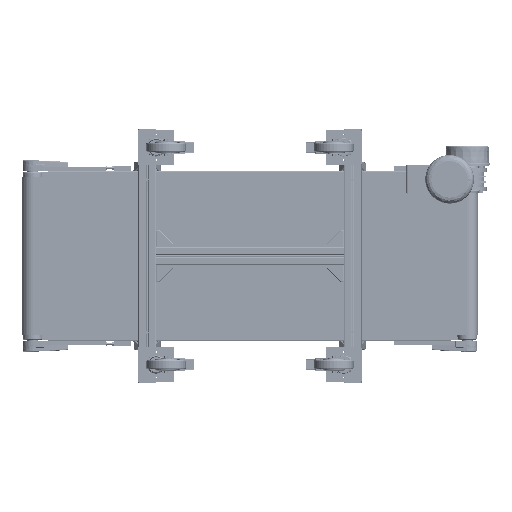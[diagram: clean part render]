
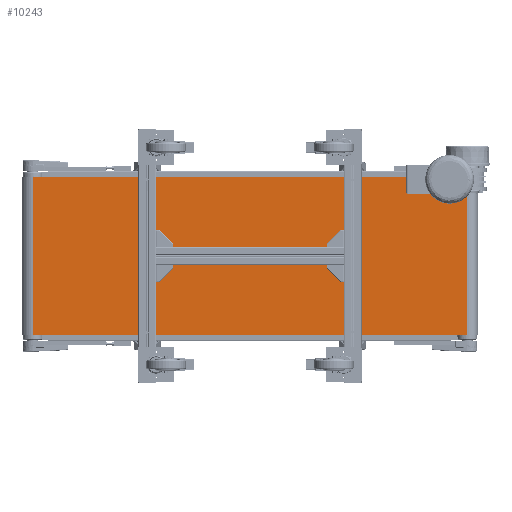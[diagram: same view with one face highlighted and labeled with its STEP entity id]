
A CAD part, front view. The second image highlights one B-rep face of the part: STEP entity #10243.
In plain terms, the highlighted planar face has unit normal (0, -1, 0).
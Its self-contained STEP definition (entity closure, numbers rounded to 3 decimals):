
#3727 = EDGE_CURVE ( 'NONE', #129481, #226383, #172340, .T. ) ;
#10243 = ADVANCED_FACE ( 'NONE', ( #48286 ), #173218, .F. ) ;
#22858 = LINE ( 'NONE', #104065, #58692 ) ;
#23036 = ORIENTED_EDGE ( 'NONE', *, *, #192509, .T. ) ;
#28043 = CARTESIAN_POINT ( 'NONE',  ( -550., -27., 200. ) ) ;
#40107 = ORIENTED_EDGE ( 'NONE', *, *, #241490, .F. ) ;
#42172 = CARTESIAN_POINT ( 'NONE',  ( -550., -27., 200. ) ) ;
#48286 = FACE_OUTER_BOUND ( 'NONE', #259962, .T. ) ;
#58692 = VECTOR ( 'NONE', #185127, 1000. ) ;
#64740 = VERTEX_POINT ( 'NONE', #89130 ) ;
#66953 = CARTESIAN_POINT ( 'NONE',  ( -550., -27., 200. ) ) ;
#71942 = DIRECTION ( 'NONE',  ( 0., 0., -1. ) ) ;
#74131 = CARTESIAN_POINT ( 'NONE',  ( 550., -27., 200. ) ) ;
#89130 = CARTESIAN_POINT ( 'NONE',  ( 550., -27., -200. ) ) ;
#94385 = VERTEX_POINT ( 'NONE', #193499 ) ;
#94840 = VECTOR ( 'NONE', #230897, 1000. ) ;
#104065 = CARTESIAN_POINT ( 'NONE',  ( 550., -27., 200. ) ) ;
#105420 = AXIS2_PLACEMENT_3D ( 'NONE', #66953, #150658, #171910 ) ;
#106093 = VECTOR ( 'NONE', #159884, 1000. ) ;
#107849 = ORIENTED_EDGE ( 'NONE', *, *, #3727, .F. ) ;
#112543 = CARTESIAN_POINT ( 'NONE',  ( -550., -27., 200. ) ) ;
#113833 = ORIENTED_EDGE ( 'NONE', *, *, #192186, .T. ) ;
#121354 = LINE ( 'NONE', #221057, #106093 ) ;
#129481 = VERTEX_POINT ( 'NONE', #42172 ) ;
#150658 = DIRECTION ( 'NONE',  ( 0., 1., 0. ) ) ;
#159884 = DIRECTION ( 'NONE',  ( 1., 0., 0. ) ) ;
#171910 = DIRECTION ( 'NONE',  ( 0., 0., 1. ) ) ;
#172340 = LINE ( 'NONE', #112543, #94840 ) ;
#173218 = PLANE ( 'NONE',  #105420 ) ;
#185127 = DIRECTION ( 'NONE',  ( 0., 0., -1. ) ) ;
#192186 = EDGE_CURVE ( 'NONE', #94385, #64740, #121354, .T. ) ;
#192509 = EDGE_CURVE ( 'NONE', #129481, #94385, #210254, .T. ) ;
#193499 = CARTESIAN_POINT ( 'NONE',  ( -550., -27., -200. ) ) ;
#210254 = LINE ( 'NONE', #28043, #254837 ) ;
#221057 = CARTESIAN_POINT ( 'NONE',  ( -550., -27., -200. ) ) ;
#226383 = VERTEX_POINT ( 'NONE', #74131 ) ;
#230897 = DIRECTION ( 'NONE',  ( 1., 0., 0. ) ) ;
#241490 = EDGE_CURVE ( 'NONE', #226383, #64740, #22858, .T. ) ;
#254837 = VECTOR ( 'NONE', #71942, 1000. ) ;
#259962 = EDGE_LOOP ( 'NONE', ( #113833, #40107, #107849, #23036 ) ) ;
